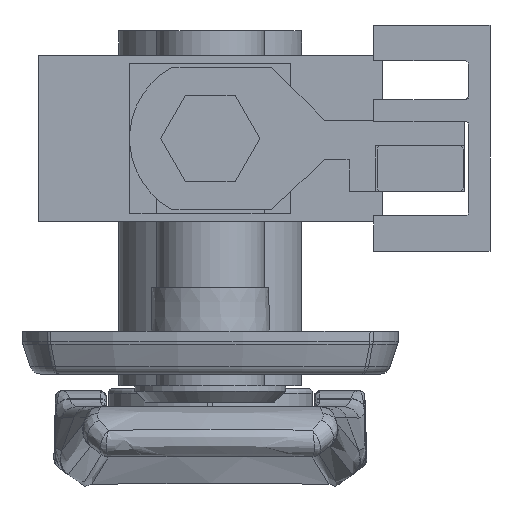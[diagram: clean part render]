
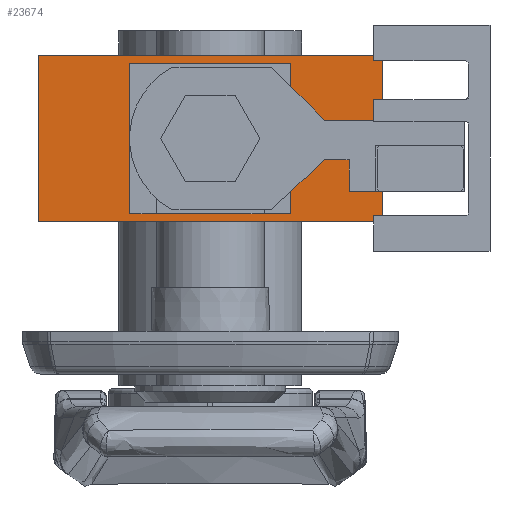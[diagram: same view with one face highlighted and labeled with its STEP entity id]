
A CAD part, front view. The second image highlights one B-rep face of the part: STEP entity #23674.
In plain terms, the highlighted planar face has unit normal (0, -1, 0).
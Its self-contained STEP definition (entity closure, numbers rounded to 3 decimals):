
#211 = CARTESIAN_POINT ( 'NONE',  ( -16., -199.25, -7.75 ) ) ;
#482 = EDGE_CURVE ( 'NONE', #23285, #6573, #10950, .T. ) ;
#1582 = FACE_BOUND ( 'NONE', #15293, .T. ) ;
#1900 = PLANE ( 'NONE',  #24625 ) ;
#2083 = VECTOR ( 'NONE', #26691, 1000. ) ;
#2276 = ORIENTED_EDGE ( 'NONE', *, *, #5554, .F. ) ;
#3667 = CARTESIAN_POINT ( 'NONE',  ( -16., -199.25, 7.75 ) ) ;
#3968 = LINE ( 'NONE', #14220, #10298 ) ;
#4825 = ORIENTED_EDGE ( 'NONE', *, *, #13820, .F. ) ;
#4982 = ORIENTED_EDGE ( 'NONE', *, *, #22896, .F. ) ;
#5554 = EDGE_CURVE ( 'NONE', #6613, #12347, #15941, .T. ) ;
#6402 = EDGE_CURVE ( 'NONE', #30186, #13480, #23247, .T. ) ;
#6573 = VERTEX_POINT ( 'NONE', #10748 ) ;
#6613 = VERTEX_POINT ( 'NONE', #8411 ) ;
#6951 = FACE_OUTER_BOUND ( 'NONE', #10901, .T. ) ;
#7301 = DIRECTION ( 'NONE',  ( 0., 0., -1. ) ) ;
#8264 = CARTESIAN_POINT ( 'NONE',  ( 7., -199.25, 6.25 ) ) ;
#8411 = CARTESIAN_POINT ( 'NONE',  ( -7., -199.25, -6.25 ) ) ;
#9375 = ORIENTED_EDGE ( 'NONE', *, *, #482, .F. ) ;
#10298 = VECTOR ( 'NONE', #21457, 1000. ) ;
#10305 = DIRECTION ( 'NONE',  ( 1., 0., 0. ) ) ;
#10372 = CARTESIAN_POINT ( 'NONE',  ( -7., -199.25, -6.25 ) ) ;
#10748 = CARTESIAN_POINT ( 'NONE',  ( -7., -199.25, 6.25 ) ) ;
#10820 = VECTOR ( 'NONE', #21660, 1000. ) ;
#10901 = EDGE_LOOP ( 'NONE', ( #13266, #4982, #30461, #13952 ) ) ;
#10950 = LINE ( 'NONE', #31441, #23151 ) ;
#12347 = VERTEX_POINT ( 'NONE', #12542 ) ;
#12387 = CARTESIAN_POINT ( 'NONE',  ( 16., -199.25, -7.75 ) ) ;
#12542 = CARTESIAN_POINT ( 'NONE',  ( 7., -199.25, -6.25 ) ) ;
#13266 = ORIENTED_EDGE ( 'NONE', *, *, #6402, .T. ) ;
#13272 = EDGE_CURVE ( 'NONE', #31472, #28351, #27327, .T. ) ;
#13480 = VERTEX_POINT ( 'NONE', #12387 ) ;
#13563 = DIRECTION ( 'NONE',  ( 0., 0., -1. ) ) ;
#13820 = EDGE_CURVE ( 'NONE', #12347, #23285, #3968, .T. ) ;
#13952 = ORIENTED_EDGE ( 'NONE', *, *, #32899, .T. ) ;
#14220 = CARTESIAN_POINT ( 'NONE',  ( 7., -199.25, 6.25 ) ) ;
#14684 = CARTESIAN_POINT ( 'NONE',  ( -16., -199.25, 7.75 ) ) ;
#15076 = ORIENTED_EDGE ( 'NONE', *, *, #24388, .F. ) ;
#15293 = EDGE_LOOP ( 'NONE', ( #15076, #9375, #4825, #2276 ) ) ;
#15941 = LINE ( 'NONE', #10372, #15951 ) ;
#15951 = VECTOR ( 'NONE', #18101, 1000. ) ;
#16404 = VECTOR ( 'NONE', #13563, 1000. ) ;
#16495 = CARTESIAN_POINT ( 'NONE',  ( -7., -199.25, -6.25 ) ) ;
#18101 = DIRECTION ( 'NONE',  ( 1., 0., 0. ) ) ;
#18687 = DIRECTION ( 'NONE',  ( -1., 0., 0. ) ) ;
#21457 = DIRECTION ( 'NONE',  ( 0., 0., 1. ) ) ;
#21471 = LINE ( 'NONE', #28991, #16404 ) ;
#21660 = DIRECTION ( 'NONE',  ( 1., 0., 0. ) ) ;
#22412 = CARTESIAN_POINT ( 'NONE',  ( -16., -199.25, 7.75 ) ) ;
#22896 = EDGE_CURVE ( 'NONE', #28351, #13480, #30290, .T. ) ;
#23151 = VECTOR ( 'NONE', #18687, 1000. ) ;
#23247 = LINE ( 'NONE', #211, #27757 ) ;
#23285 = VERTEX_POINT ( 'NONE', #8264 ) ;
#23674 = ADVANCED_FACE ( 'NONE', ( #1582, #6951 ), #1900, .F. ) ;
#23697 = LINE ( 'NONE', #16495, #2083 ) ;
#24388 = EDGE_CURVE ( 'NONE', #6573, #6613, #23697, .T. ) ;
#24625 = AXIS2_PLACEMENT_3D ( 'NONE', #14684, #27269, #32636 ) ;
#25569 = CARTESIAN_POINT ( 'NONE',  ( 16., -199.25, 7.75 ) ) ;
#26691 = DIRECTION ( 'NONE',  ( 0., 0., -1. ) ) ;
#27269 = DIRECTION ( 'NONE',  ( 0., 1., 0. ) ) ;
#27327 = LINE ( 'NONE', #3667, #10820 ) ;
#27757 = VECTOR ( 'NONE', #10305, 1000. ) ;
#28351 = VERTEX_POINT ( 'NONE', #31421 ) ;
#28796 = VECTOR ( 'NONE', #7301, 1000. ) ;
#28991 = CARTESIAN_POINT ( 'NONE',  ( -16., -199.25, 7.75 ) ) ;
#30186 = VERTEX_POINT ( 'NONE', #32149 ) ;
#30290 = LINE ( 'NONE', #25569, #28796 ) ;
#30461 = ORIENTED_EDGE ( 'NONE', *, *, #13272, .F. ) ;
#31421 = CARTESIAN_POINT ( 'NONE',  ( 16., -199.25, 7.75 ) ) ;
#31441 = CARTESIAN_POINT ( 'NONE',  ( 7., -199.25, 6.25 ) ) ;
#31472 = VERTEX_POINT ( 'NONE', #22412 ) ;
#32149 = CARTESIAN_POINT ( 'NONE',  ( -16., -199.25, -7.75 ) ) ;
#32636 = DIRECTION ( 'NONE',  ( 0., 0., 1. ) ) ;
#32899 = EDGE_CURVE ( 'NONE', #31472, #30186, #21471, .T. ) ;
